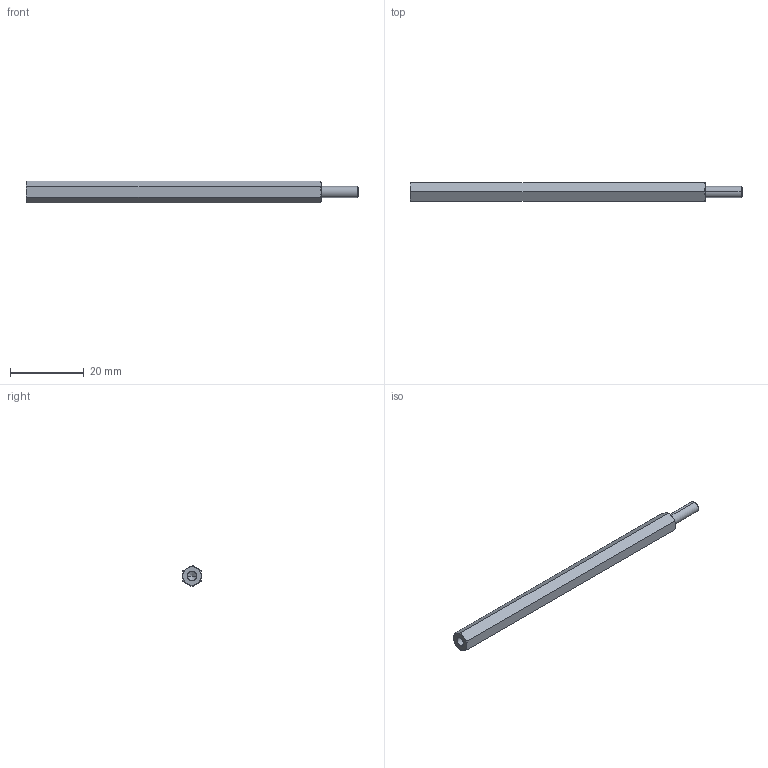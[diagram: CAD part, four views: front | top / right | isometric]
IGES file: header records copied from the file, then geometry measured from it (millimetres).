
Start section: SolidWorks IGES file using analytic representation for surfaces
Global section: file name: C:\Users\render1\Desktop\P0185_IGES\P0185.03-80.igs; native system: SolidWorks 2009; preprocessor: SolidWorks 2009; author: render1; date: 130627.111940; units: millimetre
Bounding box: 90 x 5 x 5.77 mm (x, y, z)
Surface area: 1599 mm2 (no closed solid volume)
Topology: 0 solids, 0 shells, 29 faces, 324 edges, 322 vertices
Faces by surface type: revolution 20, bspline 9
